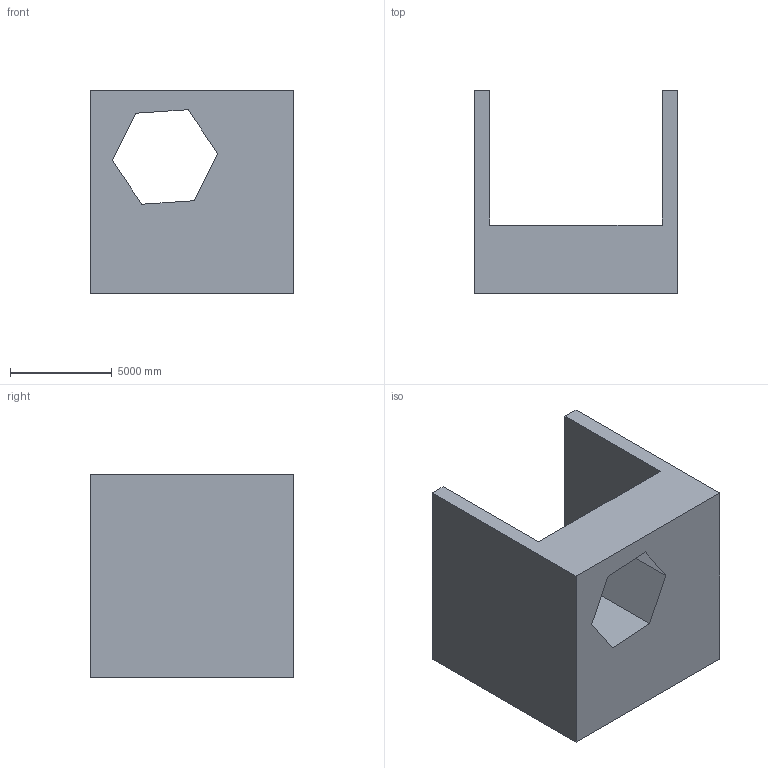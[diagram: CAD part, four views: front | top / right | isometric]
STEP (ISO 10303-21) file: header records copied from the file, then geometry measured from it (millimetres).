
FILE_DESCRIPTION (( 'STEP AP203' ), '1' );
FILE_NAME ('66.STEP', '2022-07-28T13:32:00', ( 'user' ), ( '' ), 'SwSTEP 2.0', 'SolidWorks 2021', '' );
FILE_SCHEMA (( 'CONFIG_CONTROL_DESIGN' ));
Length unit declared in the file: centimetre
Products named in the file (1): 66
Bounding box: 10000 x 10000 x 10000 mm (x, y, z)
Volume: 378892848551.6 mm3; surface area: 637643390.9 mm2
Topology: 1 solids, 1 shells, 16 faces, 42 edges, 28 vertices
Faces by surface type: plane 16
Entity records: 567 total; most frequent: CARTESIAN_POINT 87, ORIENTED_EDGE 84, DIRECTION 76, LINE 42, VECTOR 42, EDGE_CURVE 42, VERTEX_POINT 28, EDGE_LOOP 18
